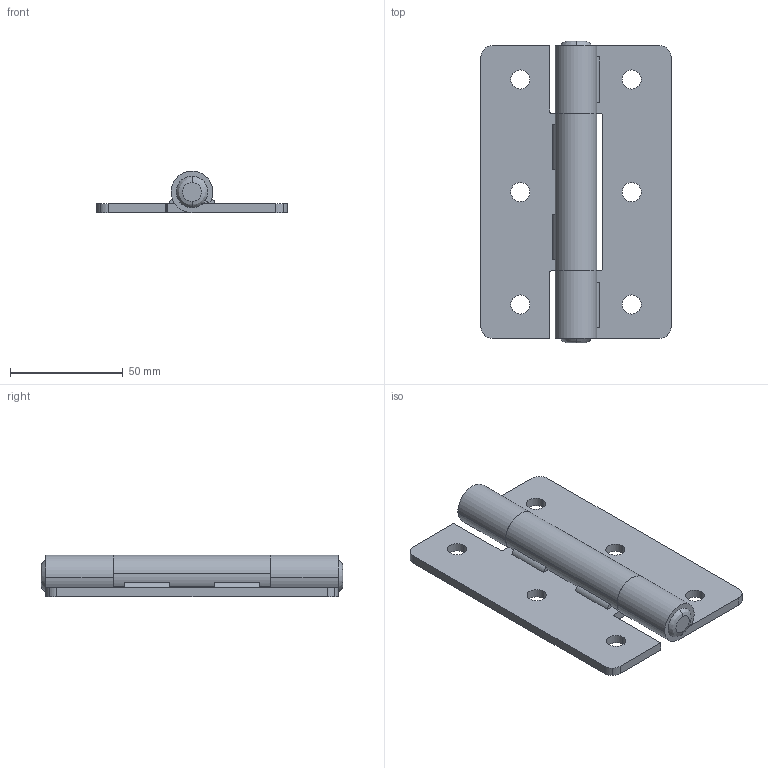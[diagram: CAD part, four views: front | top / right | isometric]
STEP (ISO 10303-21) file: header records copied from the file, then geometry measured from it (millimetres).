
FILE_DESCRIPTION((''),'2;1');
FILE_NAME('99.2453.04.stp','2017-06-09T13:55:49',(''),(''),'Mechanical Desktop 2006','Mechanical Desktop 2006',', , ');
FILE_SCHEMA(('AUTOMOTIVE_DESIGN { 1 2 10303 214 0 1 1 1 }'));
Length unit declared in the file: millimetre
Products named in the file (4): 99.2453.04-(FINKEL); ~~TEIL1; ~TEIL1; ~~~TEIL1
Assembly tree (3 placements, depth 2):
  99.2453.04-(FINKEL)
    ~~TEIL1
    ~TEIL1
    ~~~TEIL1
Bounding box: 84.5 x 134 x 18.48 mm (x, y, z)
Volume: 67157 mm3; surface area: 36868.1 mm2
Topology: 3 solids, 3 shells, 96 faces, 278 edges, 186 vertices
Faces by surface type: cylinder 56, plane 36, bspline 4
Entity records: 3621 total; most frequent: CARTESIAN_POINT 747, DIRECTION 588, ORIENTED_EDGE 556, EDGE_CURVE 278, AXIS2_PLACEMENT_3D 222, VERTEX_POINT 186, VECTOR 144, LINE 144
